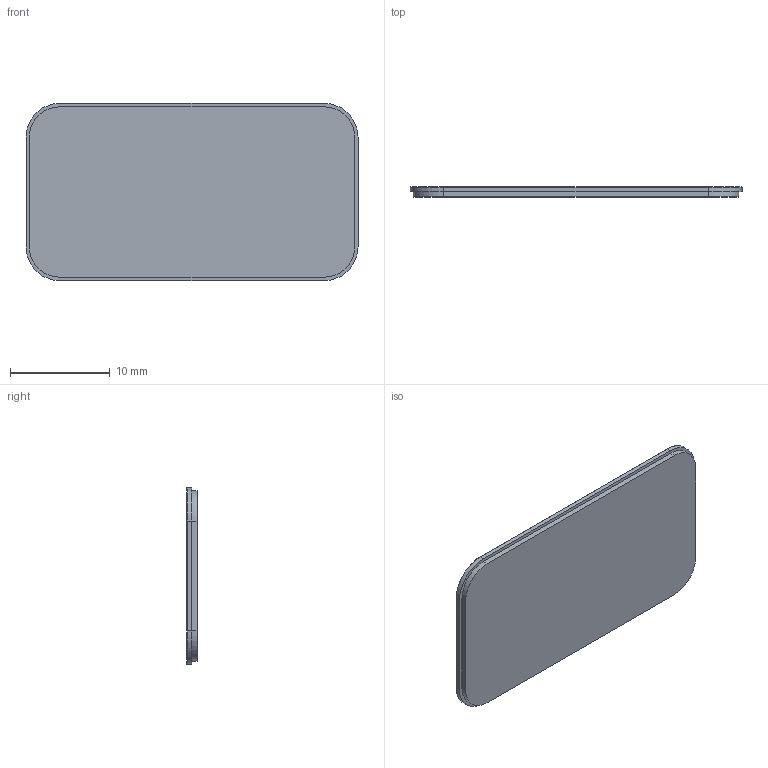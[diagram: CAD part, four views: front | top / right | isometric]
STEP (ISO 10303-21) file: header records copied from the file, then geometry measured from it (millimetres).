
FILE_DESCRIPTION(/* description */ ('STEP AP242 Edition 2','CAx-IF Rec.Pracs.---Representation and Presentation of Product Manufacturing Information (PMI)---4.0---2014-10-13','CAx-IF Rec.Pracs.---3D Tessellated Geometry---0.4---2014-09-14','2;1','CAx-IF Rec.Pracs.---User Defined Attributes---1.5---2016-08-15'),/* implementation_level */ '2;1');
FILE_NAME(/* name */ 'Assembly 1 - Part 8 (1)',/* time_stamp */ '2026-10-02T23:42:51Z',/* author */ (''),/* organization */ (''),/* preprocessor_version */ 'ST-DEVELOPER v20',/* originating_system */ 'ONSHAPE BY PTC INC, 1.221',/* authorisation */ ' ');
FILE_SCHEMA (('AP242_MANAGED_MODEL_BASED_3D_ENGINEERING_MIM_LF { 1 0 10303 442 3 1 4 }'));
Length unit declared in the file: metre
Products named in the file (1): Part 8
Bounding box: 33.34 x 1.01 x 17.78 mm (x, y, z)
Volume: 571.4 mm3; surface area: 1260.9 mm2
Topology: 1 solids, 1 shells, 27 faces, 64 edges, 40 vertices
Faces by surface type: cylinder 12, plane 11, torus 4
Entity records: 804 total; most frequent: DIRECTION 148, CARTESIAN_POINT 132, ORIENTED_EDGE 128, EDGE_CURVE 64, AXIS2_PLACEMENT_3D 56, VERTEX_POINT 40, LINE 36, VECTOR 36
